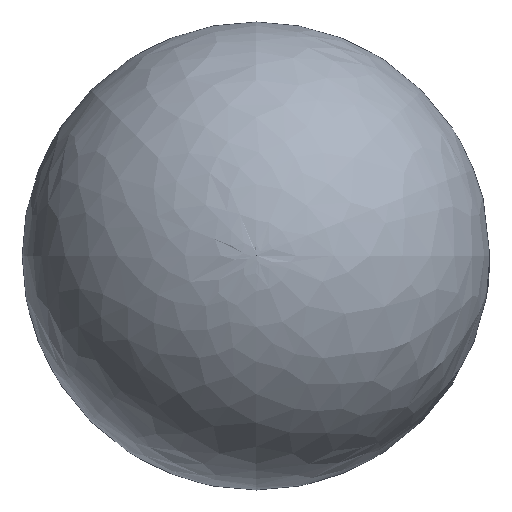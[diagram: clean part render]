
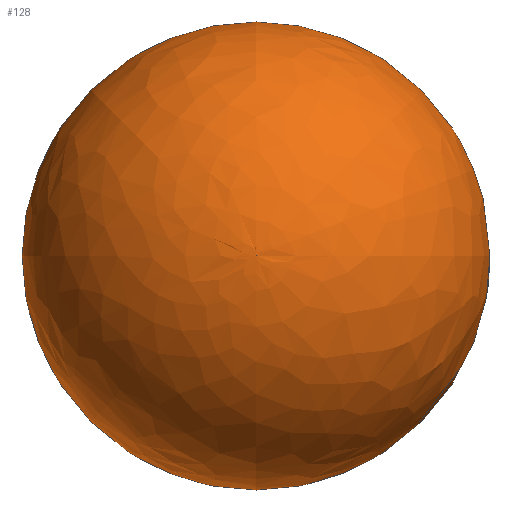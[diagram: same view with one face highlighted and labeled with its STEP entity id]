
A CAD part, top view. The second image highlights one B-rep face of the part: STEP entity #128.
In plain terms, the highlighted free-form (B-spline) face has degree [2, 2] with [5, 9] control points.
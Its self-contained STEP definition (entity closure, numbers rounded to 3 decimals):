
#20=(
BOUNDED_SURFACE()
B_SPLINE_SURFACE(2,2,((#292,#293,#294,#295,#296,#297,#298,#299,#300),(#301,
#302,#303,#304,#305,#306,#307,#308,#309),(#310,#311,#312,#313,#314,#315,
#316,#317,#318),(#319,#320,#321,#322,#323,#324,#325,#326,#327),(#328,#329,
#330,#331,#332,#333,#334,#335,#336)),.UNSPECIFIED.,.F.,.T.,.F.)
B_SPLINE_SURFACE_WITH_KNOTS((3,2,3),(3,2,2,2,3),(-1.545,-0.304,
0.936),(-3.142,-1.571,0.,1.571,
3.142),.UNSPECIFIED.)
GEOMETRIC_REPRESENTATION_ITEM()
RATIONAL_B_SPLINE_SURFACE(((1.,0.707,1.,0.707,1.,
0.707,1.,0.707,1.),(0.814,0.575,
0.814,0.575,0.814,0.575,0.814,
0.575,0.814),(1.,0.707,1.,0.707,
1.,0.707,1.,0.707,1.),(0.814,0.575,
0.814,0.575,0.814,0.575,
0.814,0.575,0.814),(1.,0.707,
1.,0.707,1.,0.707,1.,0.707,1.)))
REPRESENTATION_ITEM('')
SURFACE()
);
#32=FACE_OUTER_BOUND('',#40,.T.);
#40=EDGE_LOOP('',(#105,#106,#107));
#49=CIRCLE('',#155,20.);
#50=CIRCLE('',#156,35.269);
#72=VERTEX_POINT('',#337);
#73=VERTEX_POINT('',#339);
#85=EDGE_CURVE('',#72,#72,#49,.T.);
#86=EDGE_CURVE('',#72,#73,#50,.T.);
#105=ORIENTED_EDGE('',*,*,#85,.F.);
#106=ORIENTED_EDGE('',*,*,#86,.T.);
#107=ORIENTED_EDGE('',*,*,#86,.F.);
#128=ADVANCED_FACE('',(#32),#20,.F.);
#155=AXIS2_PLACEMENT_3D('',#338,#185,#186);
#156=AXIS2_PLACEMENT_3D('',#340,#187,#188);
#185=DIRECTION('center_axis',(0.,0.,-1.));
#186=DIRECTION('ref_axis',(1.,0.,0.));
#187=DIRECTION('center_axis',(0.,-1.,0.));
#188=DIRECTION('ref_axis',(1.,0.,0.));
#292=CARTESIAN_POINT('Ctrl Pts',(0.,0.,83.667));
#293=CARTESIAN_POINT('Ctrl Pts',(0.,0.,
83.667));
#294=CARTESIAN_POINT('Ctrl Pts',(0.,0.,83.667));
#295=CARTESIAN_POINT('Ctrl Pts',(0.,0.,
83.667));
#296=CARTESIAN_POINT('Ctrl Pts',(0.,0.,83.667));
#297=CARTESIAN_POINT('Ctrl Pts',(0.,0.,
83.667));
#298=CARTESIAN_POINT('Ctrl Pts',(0.,0.,83.667));
#299=CARTESIAN_POINT('Ctrl Pts',(0.,0.,
83.667));
#300=CARTESIAN_POINT('Ctrl Pts',(0.,0.,83.667));
#301=CARTESIAN_POINT('Ctrl Pts',(25.194,0.,83.022));
#302=CARTESIAN_POINT('Ctrl Pts',(25.194,-25.194,83.022));
#303=CARTESIAN_POINT('Ctrl Pts',(0.,-25.194,83.022));
#304=CARTESIAN_POINT('Ctrl Pts',(-25.194,-25.194,83.022));
#305=CARTESIAN_POINT('Ctrl Pts',(-25.194,0.,83.022));
#306=CARTESIAN_POINT('Ctrl Pts',(-25.194,25.194,83.022));
#307=CARTESIAN_POINT('Ctrl Pts',(0.,25.194,83.022));
#308=CARTESIAN_POINT('Ctrl Pts',(25.194,25.194,83.022));
#309=CARTESIAN_POINT('Ctrl Pts',(25.194,0.,83.022));
#310=CARTESIAN_POINT('Ctrl Pts',(32.747,0.,58.979));
#311=CARTESIAN_POINT('Ctrl Pts',(32.747,-32.747,58.979));
#312=CARTESIAN_POINT('Ctrl Pts',(0.,-32.747,58.979));
#313=CARTESIAN_POINT('Ctrl Pts',(-32.747,-32.747,58.979));
#314=CARTESIAN_POINT('Ctrl Pts',(-32.747,0.,58.979));
#315=CARTESIAN_POINT('Ctrl Pts',(-32.747,32.747,58.979));
#316=CARTESIAN_POINT('Ctrl Pts',(0.,32.747,58.979));
#317=CARTESIAN_POINT('Ctrl Pts',(32.747,32.747,58.979));
#318=CARTESIAN_POINT('Ctrl Pts',(32.747,0.,58.979));
#319=CARTESIAN_POINT('Ctrl Pts',(40.3,0.,34.935));
#320=CARTESIAN_POINT('Ctrl Pts',(40.3,-40.3,34.935));
#321=CARTESIAN_POINT('Ctrl Pts',(0.,-40.3,34.935));
#322=CARTESIAN_POINT('Ctrl Pts',(-40.3,-40.3,34.935));
#323=CARTESIAN_POINT('Ctrl Pts',(-40.3,0.,34.935));
#324=CARTESIAN_POINT('Ctrl Pts',(-40.3,40.3,34.935));
#325=CARTESIAN_POINT('Ctrl Pts',(0.,40.3,34.935));
#326=CARTESIAN_POINT('Ctrl Pts',(40.3,40.3,34.935));
#327=CARTESIAN_POINT('Ctrl Pts',(40.3,0.,34.935));
#328=CARTESIAN_POINT('Ctrl Pts',(20.,0.,20.));
#329=CARTESIAN_POINT('Ctrl Pts',(20.,-20.,20.));
#330=CARTESIAN_POINT('Ctrl Pts',(0.,-20.,20.));
#331=CARTESIAN_POINT('Ctrl Pts',(-20.,-20.,20.));
#332=CARTESIAN_POINT('Ctrl Pts',(-20.,0.,20.));
#333=CARTESIAN_POINT('Ctrl Pts',(-20.,20.,20.));
#334=CARTESIAN_POINT('Ctrl Pts',(0.,20.,20.));
#335=CARTESIAN_POINT('Ctrl Pts',(20.,20.,20.));
#336=CARTESIAN_POINT('Ctrl Pts',(20.,0.,20.));
#337=CARTESIAN_POINT('',(20.,0.,20.));
#338=CARTESIAN_POINT('Origin',(0.,0.,20.));
#339=CARTESIAN_POINT('',(0.,0.,83.667));
#340=CARTESIAN_POINT('Origin',(-0.902,0.,
48.409));
